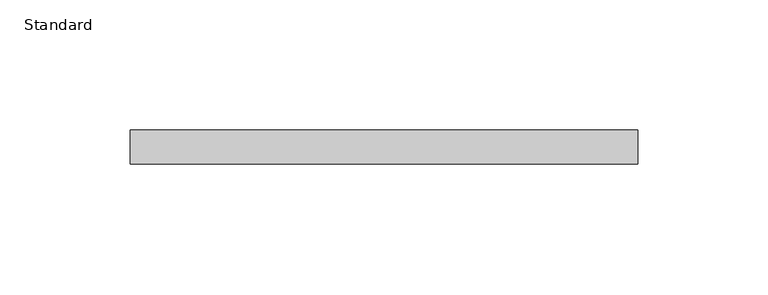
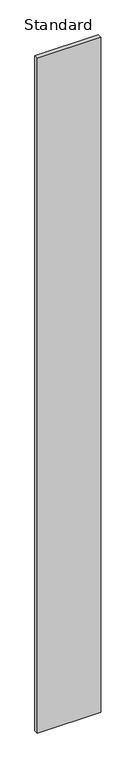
"""IFC4 building model written with IfcOpenShell, lengths in millimetres: furniture geometry, X_Partition-Compact Laminate-Duracube-Rectangular : Standard."""

from ifc_helpers import new_model, si_unit, frame, origin, place, context, project, spatial, polyline, outline, extrude, source, transform, mapped, element, save


def standard_4bb00b36(model_context):
    return source(origin(), model_context, "Body", "SweptSolid", [
        extrude(outline(polyline([(142.2003264, 0.0), (142.2003264, -13.0), (-52.7996736, -13.0), (-52.7996736, 0.0), (142.2003264, 0.0)])), frame((0.0, 0.0, 200.0), z_axis=(0.0, 0.0, 1.0), x_axis=(1.0, 0.0, 0.0)), (0.0, 0.0, 1.0), 2198.0),
    ])


if __name__ == "__main__":
    model = new_model("IFC4")
    model_context = context("Model", 3, world=origin())
    ifc_project = project(units=[si_unit("LENGTHUNIT", "METRE", prefix="MILLI")], contexts=[model_context])
    site = spatial("IfcSite", under=ifc_project)
    building = spatial("IfcBuilding", under=site)
    placement = place(None, origin())
    standard_shape = standard_4bb00b36(model_context)
    element("IfcFurniture", 1, ObjectType="X_Partition-Compact Laminate-Duracube-Rectangular : Standard", at=placement, inside=building, context=model_context, shape_type="MappedRepresentation", body=[
        mapped(standard_shape, transform((0.0, 0.0, 0.0), x_axis=(1.0, 0.0, 0.0), y_axis=(0.0, 1.0, 0.0), z_axis=(0.0, 0.0, 1.0))),
    ])
    save(model, "model.ifc")
